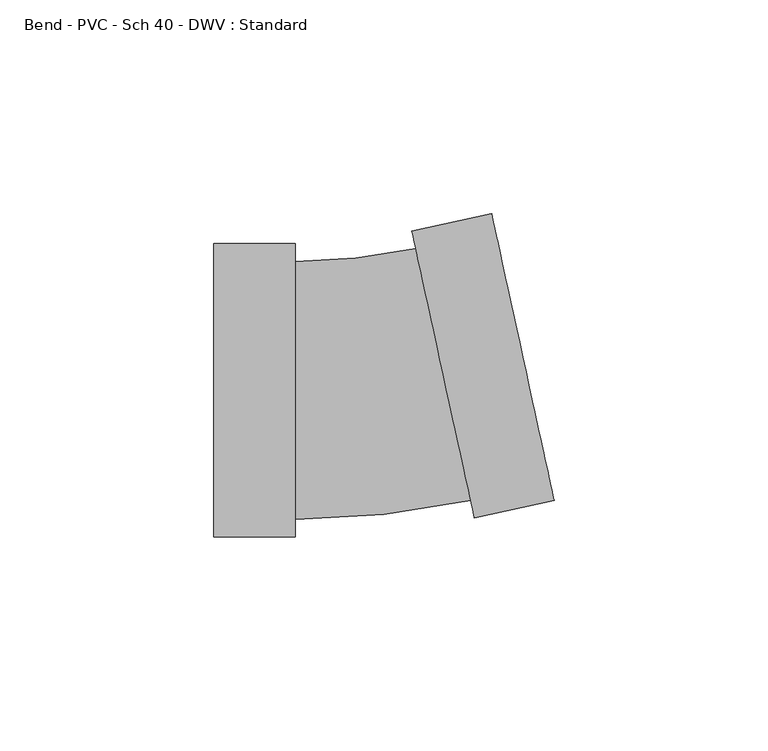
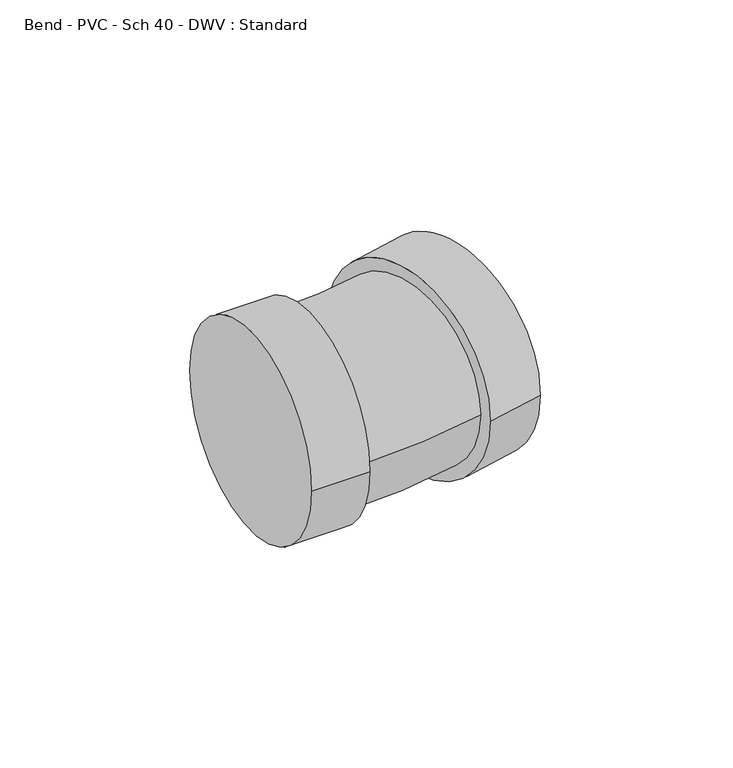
"""IFC4 building model written with IfcOpenShell, lengths in millimetres: pipe fitting geometry, Bend - PVC - Sch 40 - DWV : Standard."""

from ifc_helpers import new_model, si_unit, point, frame, origin, place, context, project, spatial, circle_curve, ellipse_curve, trimmed, source, transform, mapped, element, save
from ifc_brep_helpers import plane_surface, cylinder_surface, revolved_surface, advanced_brep


def bend_pvc_sch_40_dwv_standard_0d44c437(model_context):
    return source(origin(), model_context, "Body", "AdvancedBrep", [
        advanced_brep(
        [(-36.5252, -34.3154, 0.0), (-36.5252, 34.3154, 0.0), (-17.4752, -34.3154, 0.0), (-17.4752, 34.3154, 0.0), (-17.4752, -30.1625, 0.0), (-17.4752, 30.1625, 0.0), (10.648744, 33.1928196, 0.0), (23.4994359, -25.7475345, 0.0), (24.3841046, -29.8051126, 0.0), (9.7640753, 37.2503977, 0.0), (42.996848, -25.7469994, 0.0), (28.3768187, 41.3085109, 0.0)],
        [
            (0, 1, circle_curve(frame((-36.5252, 0.0, 0.0), z_axis=(-1.0, 0.0, 0.0), x_axis=(0.0, 1.0, 0.0)), 34.3154)),
            (1, 0, circle_curve(frame((-36.5252, 0.0, 0.0), z_axis=(-1.0, 0.0, 0.0), x_axis=(0.0, 1.0, 0.0)), 34.3154)),
            (2, 3, circle_curve(frame((-17.4752, 0.0, 0.0), z_axis=(1.0, 0.0, 0.0), x_axis=(0.0, 1.0, 0.0)), 34.3154)),
            (3, 2, circle_curve(frame((-17.4752, 0.0, 0.0), z_axis=(1.0, 0.0, 0.0), x_axis=(0.0, 1.0, 0.0)), 34.3154)),
            (4, 5, circle_curve(frame((-17.4752, 0.0, 0.0), z_axis=(-1.0, 0.0, 0.0), x_axis=(0.0, 1.0, 0.0)), 30.1625)),
            (5, 4, circle_curve(frame((-17.4752, 0.0, 0.0), z_axis=(-1.0, 0.0, 0.0), x_axis=(0.0, 1.0, 0.0)), 30.1625)),
            (0, 2),
            (3, 1),
            (6, 5, circle_curve(frame((-17.4752, 162.1847239, 0.0), z_axis=(0.0, 0.0, -1.0), x_axis=(0.0, -1.0, 0.0)), 132.0222239)),
            (4, 7, circle_curve(frame((-17.4752, 162.1847239, 0.0), z_axis=(0.0, 0.0, 1.0), x_axis=(0.0, -1.0, 0.0)), 192.3472239)),
            (7, 6, circle_curve(frame((17.0740899, 3.7226425, 0.0), z_axis=(-0.9770468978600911, -0.21302431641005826, 0.0), x_axis=(-0.21302431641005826, 0.9770468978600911, 0.0)), 30.1625)),
            (6, 7, circle_curve(frame((17.0740899, 3.7226425, 0.0), z_axis=(-0.9770468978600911, -0.21302431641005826, 0.0), x_axis=(-0.21302431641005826, 0.9770468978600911, 0.0)), 30.1625)),
            (8, 9, circle_curve(frame((17.0740899, 3.7226425, 0.0), z_axis=(-0.9770468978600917, -0.2130243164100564, 0.0), x_axis=(-0.2130243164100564, 0.9770468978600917, 0.0)), 34.3154)),
            (9, 8, circle_curve(frame((17.0740899, 3.7226425, 0.0), z_axis=(-0.9770468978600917, -0.2130243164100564, 0.0), x_axis=(-0.2130243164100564, 0.9770468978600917, 0.0)), 34.3154)),
            (10, 11, circle_curve(frame((35.6868334, 7.7807558, 0.0), z_axis=(0.9770468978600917, 0.2130243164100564, 0.0), x_axis=(-0.2130243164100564, 0.9770468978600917, 0.0)), 34.3154)),
            (11, 10, circle_curve(frame((35.6868334, 7.7807558, 0.0), z_axis=(0.9770468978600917, 0.2130243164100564, 0.0), x_axis=(-0.2130243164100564, 0.9770468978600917, 0.0)), 34.3154)),
            (8, 10),
            (11, 9),
        ],
        [
            plane_surface(frame((-36.5252, 0.0, 0.0), z_axis=(-1.0, 0.0, 0.0), x_axis=(0.0, 0.0, 1.0))),
            plane_surface(frame((-17.4752, 0.0, 0.0), z_axis=(1.0, 0.0, 0.0), x_axis=(0.0, 0.0, 1.0))),
            cylinder_surface(frame((-36.5252, 0.0, 0.0), z_axis=(-1.0, 0.0, 0.0), x_axis=(0.0, 1.0, 0.0)), 34.3154),
            revolved_surface(trimmed(ellipse_curve(frame((-17.4752, 0.0, 0.0), z_axis=(-1.0, 0.0, 0.0), x_axis=(0.0, 1.0, 0.0)), 30.1625, 30.1625), [point((-17.4752, -30.1625, 0.0))], [point((-17.4752, 30.1625, 0.0))], True, "CARTESIAN"), (-17.4752, 162.1847239, 0.0), (0.0, 0.0, 1.0)),
            revolved_surface(trimmed(ellipse_curve(frame((-17.4752, 0.0, 0.0), z_axis=(-1.0, 0.0, 0.0), x_axis=(0.0, 1.0, 0.0)), 30.1625, 30.1625), [point((-17.4752, 30.1625, 0.0))], [point((-17.4752, -30.1625, 0.0))], True, "CARTESIAN"), (-17.4752, 162.1847239, 0.0), (0.0, 0.0, 1.0)),
            plane_surface(frame((17.0740899, 3.7226425, 0.0), z_axis=(-0.9770468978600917, -0.2130243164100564, 0.0), x_axis=(0.0, 0.0, 1.0))),
            plane_surface(frame((35.6868334, 7.7807558, 0.0), z_axis=(0.9770468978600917, 0.2130243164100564, 0.0), x_axis=(0.0, 0.0, 1.0))),
            cylinder_surface(frame((17.0740899, 3.7226425, 0.0), z_axis=(-0.9770468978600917, -0.2130243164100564, 0.0), x_axis=(-0.2130243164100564, 0.9770468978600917, 0.0)), 34.3154),
        ],
        [
            (0, [[1, 2]]),
            (1, [[3, 4], [5, 6]]),
            (2, [[-1, 7, -4, 8]]),
            (2, [[-2, -8, -3, -7]]),
            (3, [[9, -5, 10, 11]]),
            (4, [[-9, 12, -10, -6]]),
            (5, [[13, 14], [-11, -12]]),
            (6, [[15, 16]]),
            (7, [[-13, 17, -16, 18]]),
            (7, [[-14, -18, -15, -17]]),
        ],
    ),
    ])


if __name__ == "__main__":
    model = new_model("IFC4")
    model_context = context("Model", 3, world=origin())
    ifc_project = project(units=[si_unit("LENGTHUNIT", "METRE", prefix="MILLI")], contexts=[model_context])
    site = spatial("IfcSite", under=ifc_project)
    building = spatial("IfcBuilding", under=site)
    placement = place(None, origin())
    bend_pvc_sch_40_dwv_standard_shape = bend_pvc_sch_40_dwv_standard_0d44c437(model_context)
    element("IfcPipeFitting", 1, ObjectType="Bend - PVC - Sch 40 - DWV : Standard", at=placement, inside=building, context=model_context, shape_type="MappedRepresentation", body=[
        mapped(bend_pvc_sch_40_dwv_standard_shape, transform((0.0, 0.0, 0.0), x_axis=(1.0, 0.0, 0.0), y_axis=(0.0, 1.0, 0.0), z_axis=(0.0, 0.0, 1.0))),
    ])
    save(model, "model.ifc")
